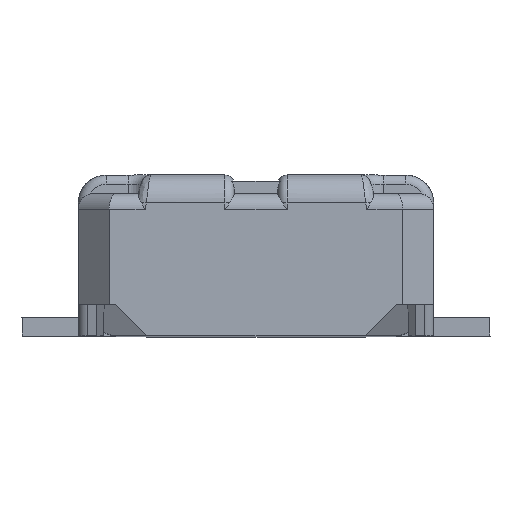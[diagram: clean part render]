
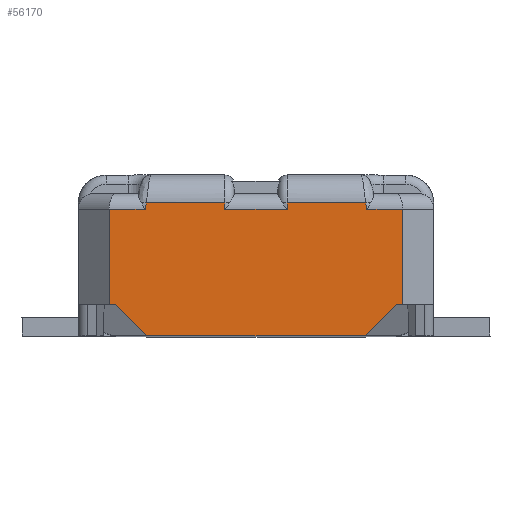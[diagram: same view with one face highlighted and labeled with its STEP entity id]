
A CAD part, top view. The second image highlights one B-rep face of the part: STEP entity #56170.
In plain terms, the highlighted planar face has unit normal (0, 0, 1) as drawn and (0, 0, -1) by its records, which use the part's own axes.
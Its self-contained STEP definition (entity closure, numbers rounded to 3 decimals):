
#53390=CARTESIAN_POINT('',(-10.011,-0.356,
0.93));
#53400=VERTEX_POINT('',#53390);
#53430=CARTESIAN_POINT('',(-19.082,-0.356,
0.93));
#53440=DIRECTION('',(1.,0.,0.));
#53450=VECTOR('',#53440,1.);
#53460=LINE('',#53430,#53450);
#53470=CARTESIAN_POINT('',(-9.991,-0.356,
0.93));
#53480=VERTEX_POINT('',#53470);
#53490=EDGE_CURVE('',#53400,#53480,#53460,.T.);
#53700=CARTESIAN_POINT('',(-10.011,-0.661,
0.93));
#53710=VERTEX_POINT('',#53700);
#53740=CARTESIAN_POINT('',(-10.011,0.,
0.93));
#53750=DIRECTION('',(0.,1.,0.));
#53760=VECTOR('',#53750,1.);
#53770=LINE('',#53740,#53760);
#53780=EDGE_CURVE('',#53710,#53400,#53770,.T.);
#54420=CARTESIAN_POINT('',(-9.441,-0.681,
0.93));
#54430=VERTEX_POINT('',#54420);
#54760=CARTESIAN_POINT('',(-9.19,-0.681,
0.93));
#54770=VERTEX_POINT('',#54760);
#54800=CARTESIAN_POINT('',(-9.19,-0.681,
0.93));
#54810=DIRECTION('',(-1.,0.,0.));
#54820=VECTOR('',#54810,1.);
#54830=LINE('',#54800,#54820);
#54840=EDGE_CURVE('',#54770,#54430,#54830,.T.);
#54950=CARTESIAN_POINT('',(-19.082,-9.447,
0.93));
#54960=DIRECTION('',(0.707,0.707,
0.));
#54970=VECTOR('',#54960,1.);
#54980=LINE('',#54950,#54970);
#54990=CARTESIAN_POINT('',(-9.891,-0.256,
0.93));
#55000=VERTEX_POINT('',#54990);
#55010=EDGE_CURVE('',#53480,#55000,#54980,.T.);
#55140=CARTESIAN_POINT('',(-9.039,-0.7,
0.93));
#55150=DIRECTION('',(0.,0.,-1.));
#55160=DIRECTION('',(-1.,0.,0.));
#55170=AXIS2_PLACEMENT_3D('',#55140,#55150,#55160);
#55180=PLANE('',#55170);
#55190=ORIENTED_EDGE('',*,*,#54840,.T.);
#55200=CARTESIAN_POINT('',(-9.066,0.,
0.93));
#55210=DIRECTION('',(0.179,0.984,
0.));
#55220=VECTOR('',#55210,1.);
#55230=LINE('',#55200,#55220);
#55240=CARTESIAN_POINT('',(-9.186,-0.661,
0.93));
#55250=VERTEX_POINT('',#55240);
#55260=EDGE_CURVE('',#54770,#55250,#55230,.T.);
#55270=ORIENTED_EDGE('',*,*,#55260,.F.);
#55280=CARTESIAN_POINT('',(-9.071,-0.661,
0.93));
#55290=DIRECTION('',(-1.,0.,0.));
#55300=VECTOR('',#55290,1.);
#55310=LINE('',#55280,#55300);
#55320=CARTESIAN_POINT('',(-9.071,-0.661,
0.93));
#55330=VERTEX_POINT('',#55320);
#55340=EDGE_CURVE('',#55330,#55250,#55310,.T.);
#55350=ORIENTED_EDGE('',*,*,#55340,.T.);
#55360=CARTESIAN_POINT('',(-9.071,0.,
0.93));
#55370=DIRECTION('',(0.,1.,0.));
#55380=VECTOR('',#55370,1.);
#55390=LINE('',#55360,#55380);
#55400=CARTESIAN_POINT('',(-9.071,-0.356,
0.93));
#55410=VERTEX_POINT('',#55400);
#55420=EDGE_CURVE('',#55330,#55410,#55390,.T.);
#55430=ORIENTED_EDGE('',*,*,#55420,.F.);
#55440=CARTESIAN_POINT('',(-19.082,-0.356,
0.93));
#55450=DIRECTION('',(-1.,0.,0.));
#55460=VECTOR('',#55450,1.);
#55470=LINE('',#55440,#55460);
#55480=CARTESIAN_POINT('',(-9.091,-0.356,
0.93));
#55490=VERTEX_POINT('',#55480);
#55500=EDGE_CURVE('',#55410,#55490,#55470,.T.);
#55510=ORIENTED_EDGE('',*,*,#55500,.F.);
#55520=CARTESIAN_POINT('',(-19.082,9.635,
0.93));
#55530=DIRECTION('',(-0.707,0.707,
0.));
#55540=VECTOR('',#55530,1.);
#55550=LINE('',#55520,#55540);
#55560=CARTESIAN_POINT('',(-9.191,-0.256,
0.93));
#55570=VERTEX_POINT('',#55560);
#55580=EDGE_CURVE('',#55490,#55570,#55550,.T.);
#55590=ORIENTED_EDGE('',*,*,#55580,.F.);
#55600=CARTESIAN_POINT('',(-19.082,-0.256,
0.93));
#55610=DIRECTION('',(1.,0.,0.));
#55620=VECTOR('',#55610,1.);
#55630=LINE('',#55600,#55620);
#55640=EDGE_CURVE('',#55000,#55570,#55630,.T.);
#55650=ORIENTED_EDGE('',*,*,#55640,.T.);
#55660=ORIENTED_EDGE('',*,*,#55010,.T.);
#55670=ORIENTED_EDGE('',*,*,#53490,.T.);
#55680=ORIENTED_EDGE('',*,*,#53780,.T.);
#55690=CARTESIAN_POINT('',(-10.011,-0.661,
0.93));
#55700=DIRECTION('',(1.,0.,0.));
#55710=VECTOR('',#55700,1.);
#55720=LINE('',#55690,#55710);
#55730=CARTESIAN_POINT('',(-9.896,-0.661,
0.93));
#55740=VERTEX_POINT('',#55730);
#55750=EDGE_CURVE('',#53710,#55740,#55720,.T.);
#55760=ORIENTED_EDGE('',*,*,#55750,.F.);
#55770=CARTESIAN_POINT('',(-10.016,0.,
0.93));
#55780=DIRECTION('',(-0.179,0.984,
0.));
#55790=VECTOR('',#55780,1.);
#55800=LINE('',#55770,#55790);
#55810=CARTESIAN_POINT('',(-9.892,-0.681,
0.93));
#55820=VERTEX_POINT('',#55810);
#55830=EDGE_CURVE('',#55820,#55740,#55800,.T.);
#55840=ORIENTED_EDGE('',*,*,#55830,.T.);
#55850=CARTESIAN_POINT('',(-9.892,-0.681,
0.93));
#55860=DIRECTION('',(1.,0.,0.));
#55870=VECTOR('',#55860,1.);
#55880=LINE('',#55850,#55870);
#55890=CARTESIAN_POINT('',(-9.641,-0.681,
0.93));
#55900=VERTEX_POINT('',#55890);
#55910=EDGE_CURVE('',#55820,#55900,#55880,.T.);
#55920=ORIENTED_EDGE('',*,*,#55910,.F.);
#55930=CARTESIAN_POINT('',(-9.641,0.,
0.93));
#55940=DIRECTION('',(0.,-1.,0.));
#55950=VECTOR('',#55940,1.);
#55960=LINE('',#55930,#55950);
#55970=CARTESIAN_POINT('',(-9.641,-0.661,
0.93));
#55980=VERTEX_POINT('',#55970);
#55990=EDGE_CURVE('',#55980,#55900,#55960,.T.);
#56000=ORIENTED_EDGE('',*,*,#55990,.T.);
#56010=CARTESIAN_POINT('',(-9.641,-0.661,
0.93));
#56020=DIRECTION('',(1.,0.,0.));
#56030=VECTOR('',#56020,1.);
#56040=LINE('',#56010,#56030);
#56050=CARTESIAN_POINT('',(-9.441,-0.661,
0.93));
#56060=VERTEX_POINT('',#56050);
#56070=EDGE_CURVE('',#55980,#56060,#56040,.T.);
#56080=ORIENTED_EDGE('',*,*,#56070,.F.);
#56090=CARTESIAN_POINT('',(-9.441,0.,
0.93));
#56100=DIRECTION('',(0.,-1.,0.));
#56110=VECTOR('',#56100,1.);
#56120=LINE('',#56090,#56110);
#56130=EDGE_CURVE('',#56060,#54430,#56120,.T.);
#56140=ORIENTED_EDGE('',*,*,#56130,.F.);
#56150=EDGE_LOOP('',(#56140,#56080,#56000,#55920,#55840,#55760,#55680,
#55670,#55660,#55650,#55590,#55510,#55430,#55350,#55270,#55190));
#56160=FACE_OUTER_BOUND('',#56150,.T.);
#56170=ADVANCED_FACE('',(#56160),#55180,.T.);
